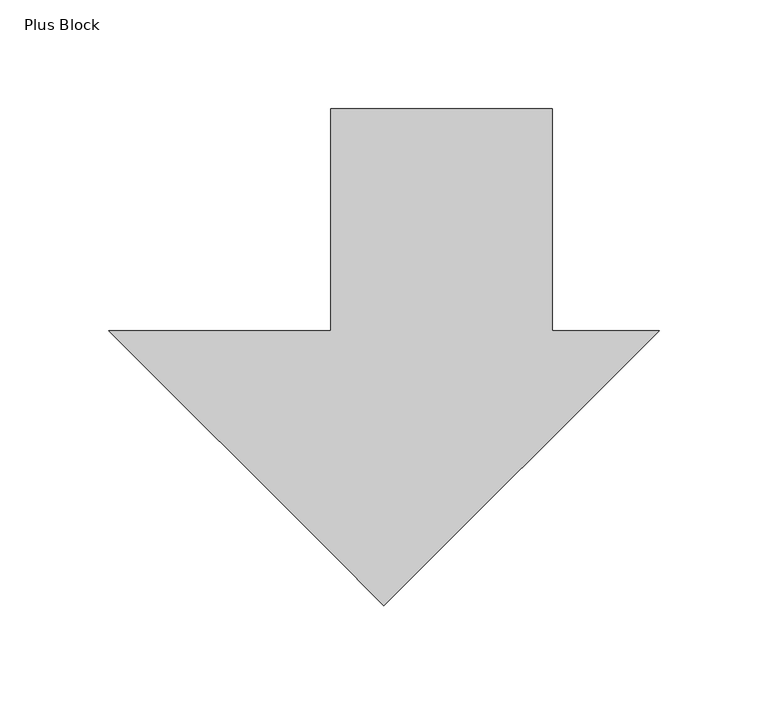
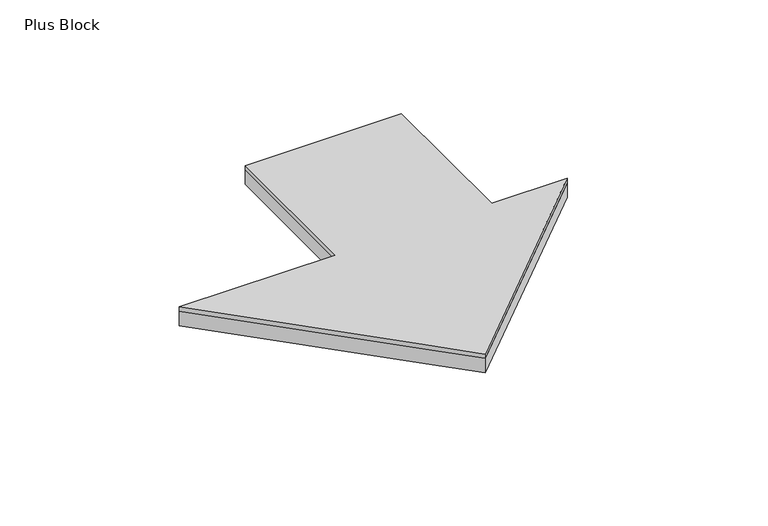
"""IFC4 building model written with IfcOpenShell, lengths in millimetres: proxy geometry, FilzFelt_Plus_Block : Plus Block."""

from ifc_helpers import new_model, si_unit, origin, place, context, project, spatial, faceted_brep, source, transform, mapped, element, save


def plus_block_c649341d(model_context):
    return source(origin(), model_context, "Body", "Brep", [
        faceted_brep([(-152.5, 50.8333333, 10.0210937), (-50.8333333, 50.8333333, 10.0210937), (-50.8333333, 152.5, 10.0210937), (50.8333333, 152.5, 10.0210937), (50.8333333, 50.8333333, 10.0210937), (99.8863689, 50.8333333, 10.0210937), (-26.3068156, -75.3598511, 10.0210937), (-50.8333333, -50.8333333, 10.0210937), (50.8333333, 50.8333333, 12.9976563), (50.8333333, 152.5, 12.9976563), (-50.8333333, 152.5, 12.9976563), (-50.8333333, 50.8333333, 12.9976563), (-152.5, 50.8333333, 12.9976563), (-50.8333333, -50.8333333, 12.9976563), (-26.3068156, -75.3598511, 12.9976563), (99.8863689, 50.8333333, 12.9976563)], [[[0, 1, 2, 3, 4, 5, 6, 7]], [[8, 9, 10, 11, 12, 13, 14, 15]], [[4, 8, 15, 5]], [[1, 0, 12, 11]], [[2, 1, 11, 10]], [[3, 2, 10, 9]], [[4, 3, 9, 8]], [[0, 7, 6, 14, 13, 12]], [[6, 5, 15, 14]]]),
        faceted_brep([(-152.5, 50.8333333, 0.0), (-50.8333333, 50.8333333, 0.0), (-50.8333333, 152.5, 0.0), (50.8333333, 152.5, 0.0), (50.8333333, 50.8333333, 0.0), (99.8863689, 50.8333333, 0.0), (-26.3068156, -75.3598511, 0.0), (-50.8333333, -50.8333333, 0.0), (50.8333333, 50.8333333, 10.0210937), (50.8333333, 152.5, 10.0210937), (-50.8333333, 152.5, 10.0210937), (-50.8333333, 50.8333333, 10.0210937), (-152.5, 50.8333333, 10.0210937), (-50.8333333, -50.8333333, 10.0210937), (-26.3068156, -75.3598511, 10.0210937), (99.8863689, 50.8333333, 10.0210937)], [[[0, 1, 2, 3, 4, 5, 6, 7]], [[8, 9, 10, 11, 12, 13, 14, 15]], [[3, 2, 10, 9]], [[1, 0, 12, 11]], [[2, 1, 11, 10]], [[4, 3, 9, 8]], [[4, 8, 15, 5]], [[0, 7, 6, 14, 13, 12]], [[6, 5, 15, 14]]]),
    ])


if __name__ == "__main__":
    model = new_model("IFC4")
    model_context = context("Model", 3, world=origin())
    ifc_project = project(units=[si_unit("LENGTHUNIT", "METRE", prefix="MILLI")], contexts=[model_context])
    site = spatial("IfcSite", under=ifc_project)
    building = spatial("IfcBuilding", under=site)
    placement = place(None, origin())
    plus_block_shape = plus_block_c649341d(model_context)
    element("IfcBuildingElementProxy", 1, Name="FilzFelt_Plus_Block : Plus Block", ObjectType="FilzFelt_Plus_Block : Plus Block", at=placement, inside=building, context=model_context, shape_type="MappedRepresentation", body=[
        mapped(plus_block_shape, transform((0.0, 0.0, 0.0), x_axis=(1.0, 0.0, 0.0), y_axis=(0.0, 1.0, 0.0), z_axis=(0.0, 0.0, 1.0))),
    ])
    save(model, "model.ifc")
